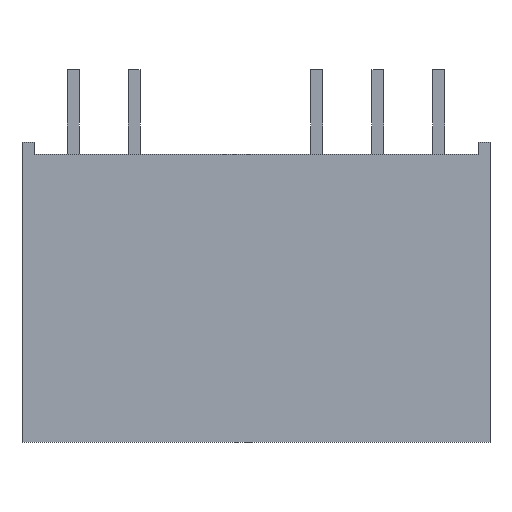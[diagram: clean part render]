
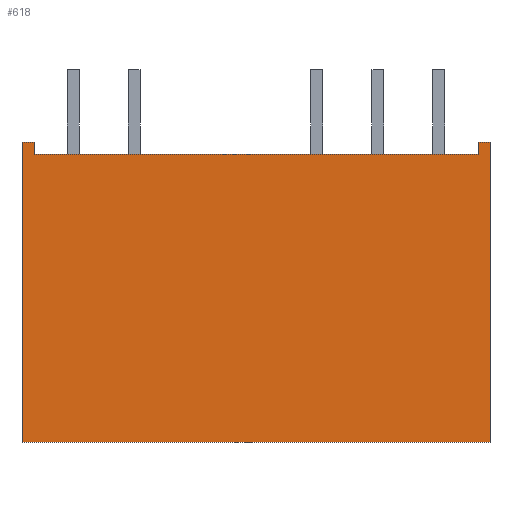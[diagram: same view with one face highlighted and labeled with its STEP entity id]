
A CAD part, front view. The second image highlights one B-rep face of the part: STEP entity #618.
In plain terms, the highlighted planar face has unit normal (0, -1, 0).
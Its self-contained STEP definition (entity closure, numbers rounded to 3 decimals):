
#72=ORIENTED_EDGE('',*,*,#198,.T.);
#73=ORIENTED_EDGE('',*,*,#230,.T.);
#74=ORIENTED_EDGE('',*,*,#212,.F.);
#75=ORIENTED_EDGE('',*,*,#216,.F.);
#76=ORIENTED_EDGE('',*,*,#226,.F.);
#77=ORIENTED_EDGE('',*,*,#223,.F.);
#78=ORIENTED_EDGE('',*,*,#221,.F.);
#79=ORIENTED_EDGE('',*,*,#231,.T.);
#198=EDGE_CURVE('',#283,#282,#338,.T.);
#212=EDGE_CURVE('',#296,#297,#352,.T.);
#216=EDGE_CURVE('',#300,#296,#356,.T.);
#221=EDGE_CURVE('',#304,#305,#361,.T.);
#223=EDGE_CURVE('',#305,#306,#363,.T.);
#226=EDGE_CURVE('',#306,#300,#366,.T.);
#230=EDGE_CURVE('',#282,#297,#370,.T.);
#231=EDGE_CURVE('',#304,#283,#371,.T.);
#282=VERTEX_POINT('',#872);
#283=VERTEX_POINT('',#874);
#296=VERTEX_POINT('',#902);
#297=VERTEX_POINT('',#903);
#300=VERTEX_POINT('',#911);
#304=VERTEX_POINT('',#920);
#305=VERTEX_POINT('',#922);
#306=VERTEX_POINT('',#926);
#338=LINE('',#873,#422);
#352=LINE('',#901,#436);
#356=LINE('',#910,#440);
#361=LINE('',#921,#445);
#363=LINE('',#925,#447);
#366=LINE('',#931,#450);
#370=LINE('',#937,#454);
#371=LINE('',#938,#455);
#422=VECTOR('',#708,1000.);
#436=VECTOR('',#724,1000.);
#440=VECTOR('',#730,1000.);
#445=VECTOR('',#737,1000.);
#447=VECTOR('',#741,1000.);
#450=VECTOR('',#746,1000.);
#454=VECTOR('',#754,1000.);
#455=VECTOR('',#755,1000.);
#508=EDGE_LOOP('',(#72,#73,#74,#75,#76,#77,#78,#79));
#548=FACE_BOUND('',#508,.T.);
#583=PLANE('',#666);
#618=ADVANCED_FACE('',(#548),#583,.F.);
#666=AXIS2_PLACEMENT_3D('',#936,#752,#753);
#708=DIRECTION('',(-1.,0.,0.));
#724=DIRECTION('',(1.,0.,0.));
#730=DIRECTION('',(0.,0.,1.));
#737=DIRECTION('',(1.,0.,0.));
#741=DIRECTION('',(0.,0.,-1.));
#746=DIRECTION('',(-1.,0.,0.));
#752=DIRECTION('',(0.,1.,0.));
#753=DIRECTION('',(0.,0.,1.));
#754=DIRECTION('',(0.,0.,1.));
#755=DIRECTION('',(0.,0.,-1.));
#872=CARTESIAN_POINT('',(-9.25,0.,7.11));
#873=CARTESIAN_POINT('',(-9.25,0.,7.11));
#874=CARTESIAN_POINT('',(9.25,0.,7.11));
#901=CARTESIAN_POINT('',(-9.75,0.,7.61));
#902=CARTESIAN_POINT('',(-9.75,0.,7.61));
#903=CARTESIAN_POINT('',(-9.25,0.,7.61));
#910=CARTESIAN_POINT('',(-9.75,0.,-4.89));
#911=CARTESIAN_POINT('',(-9.75,0.,-4.89));
#920=CARTESIAN_POINT('',(9.25,0.,7.61));
#921=CARTESIAN_POINT('',(-9.75,0.,7.61));
#922=CARTESIAN_POINT('',(9.75,0.,7.61));
#925=CARTESIAN_POINT('',(9.75,0.,-4.89));
#926=CARTESIAN_POINT('',(9.75,0.,-4.89));
#931=CARTESIAN_POINT('',(-9.75,0.,-4.89));
#936=CARTESIAN_POINT('',(-9.75,0.,7.61));
#937=CARTESIAN_POINT('',(-9.25,0.,7.61));
#938=CARTESIAN_POINT('',(9.25,0.,7.61));
